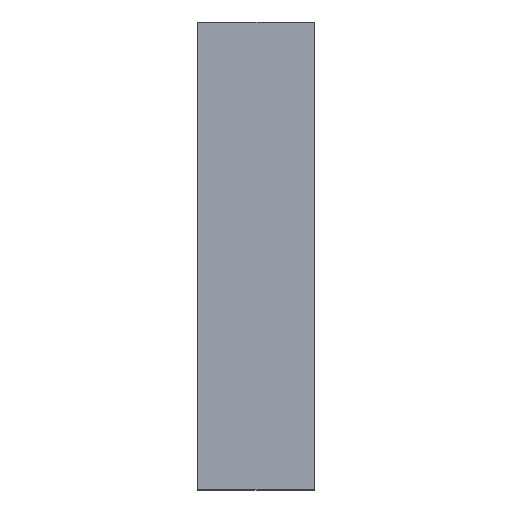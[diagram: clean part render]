
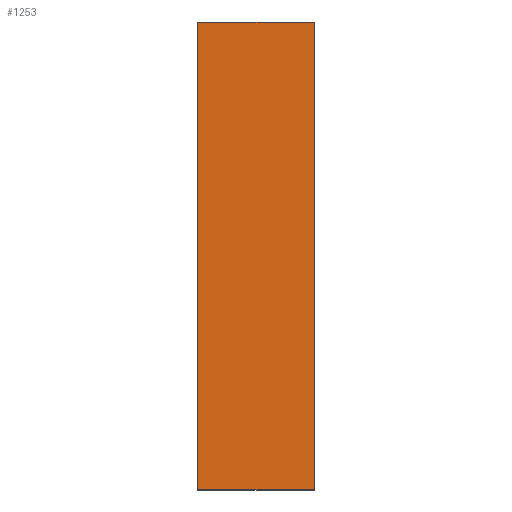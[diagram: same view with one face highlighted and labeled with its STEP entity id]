
A CAD part, left-side view. The second image highlights one B-rep face of the part: STEP entity #1253.
In plain terms, the highlighted planar face has unit normal (-1, 0, 0).
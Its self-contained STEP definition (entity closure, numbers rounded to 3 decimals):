
#17 = CARTESIAN_POINT ( 'NONE',  ( -110., 0., 60. ) ) ;
#135 = LINE ( 'NONE', #1431, #524 ) ;
#212 = LINE ( 'NONE', #891, #1363 ) ;
#214 = EDGE_LOOP ( 'NONE', ( #1958, #2464, #2581, #2713 ) ) ;
#283 = CARTESIAN_POINT ( 'NONE',  ( -110., 0., -60. ) ) ;
#411 = EDGE_CURVE ( 'NONE', #1749, #2058, #135, .T. ) ;
#524 = VECTOR ( 'NONE', #2506, 1000. ) ;
#574 = AXIS2_PLACEMENT_3D ( 'NONE', #2226, #1544, #877 ) ;
#733 = CARTESIAN_POINT ( 'NONE',  ( -110., 30., -60. ) ) ;
#877 = DIRECTION ( 'NONE',  ( 0., 0., -1. ) ) ;
#891 = CARTESIAN_POINT ( 'NONE',  ( -110., 0., -60. ) ) ;
#910 = DIRECTION ( 'NONE',  ( 0., 0., 1. ) ) ;
#922 = PLANE ( 'NONE',  #574 ) ;
#936 = CARTESIAN_POINT ( 'NONE',  ( -110., 30., -60. ) ) ;
#1253 = ADVANCED_FACE ( 'NONE', ( #1980 ), #922, .F. ) ;
#1360 = VERTEX_POINT ( 'NONE', #17 ) ;
#1363 = VECTOR ( 'NONE', #910, 1000. ) ;
#1407 = EDGE_CURVE ( 'NONE', #1749, #1446, #1634, .T. ) ;
#1431 = CARTESIAN_POINT ( 'NONE',  ( -110., 30., -60. ) ) ;
#1446 = VERTEX_POINT ( 'NONE', #283 ) ;
#1462 = DIRECTION ( 'NONE',  ( 0., -1., 0. ) ) ;
#1544 = DIRECTION ( 'NONE',  ( 1., 0., 0. ) ) ;
#1634 = LINE ( 'NONE', #936, #2527 ) ;
#1749 = VERTEX_POINT ( 'NONE', #733 ) ;
#1958 = ORIENTED_EDGE ( 'NONE', *, *, #2549, .T. ) ;
#1980 = FACE_OUTER_BOUND ( 'NONE', #214, .T. ) ;
#2058 = VERTEX_POINT ( 'NONE', #2419 ) ;
#2226 = CARTESIAN_POINT ( 'NONE',  ( -110., 30., -60. ) ) ;
#2267 = EDGE_CURVE ( 'NONE', #2058, #1360, #2739, .T. ) ;
#2296 = CARTESIAN_POINT ( 'NONE',  ( -110., 30., 60. ) ) ;
#2419 = CARTESIAN_POINT ( 'NONE',  ( -110., 30., 60. ) ) ;
#2429 = VECTOR ( 'NONE', #1462, 1000. ) ;
#2464 = ORIENTED_EDGE ( 'NONE', *, *, #2267, .F. ) ;
#2506 = DIRECTION ( 'NONE',  ( 0., 0., 1. ) ) ;
#2527 = VECTOR ( 'NONE', #2778, 1000. ) ;
#2549 = EDGE_CURVE ( 'NONE', #1446, #1360, #212, .T. ) ;
#2581 = ORIENTED_EDGE ( 'NONE', *, *, #411, .F. ) ;
#2713 = ORIENTED_EDGE ( 'NONE', *, *, #1407, .T. ) ;
#2739 = LINE ( 'NONE', #2296, #2429 ) ;
#2778 = DIRECTION ( 'NONE',  ( 0., -1., 0. ) ) ;
